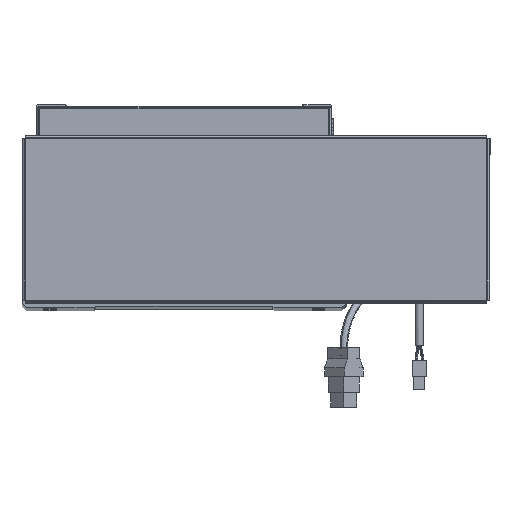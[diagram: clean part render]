
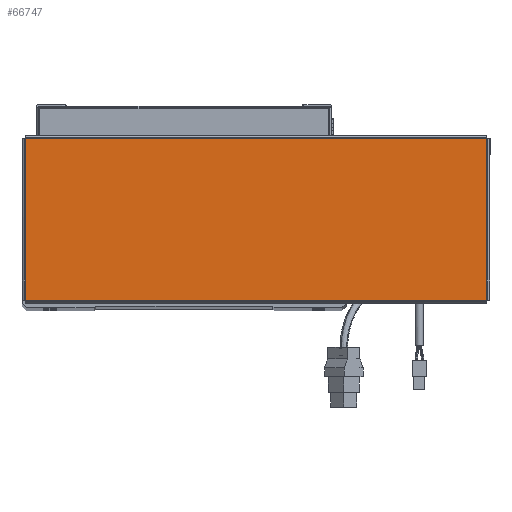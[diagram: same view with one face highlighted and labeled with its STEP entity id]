
A CAD part, top view. The second image highlights one B-rep face of the part: STEP entity #66747.
In plain terms, the highlighted planar face has unit normal (0, 0, 1).
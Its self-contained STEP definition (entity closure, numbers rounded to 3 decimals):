
#2265 = CARTESIAN_POINT ( 'NONE',  ( 156.513, 54.763, 0. ) ) ;
#3042 = CARTESIAN_POINT ( 'NONE',  ( -156.513, 54.763, 0. ) ) ;
#3336 = VECTOR ( 'NONE', #18584, 1000. ) ;
#6587 = LINE ( 'NONE', #39116, #3336 ) ;
#8775 = EDGE_CURVE ( 'NONE', #14063, #9733, #6587, .T. ) ;
#9733 = VERTEX_POINT ( 'NONE', #11433 ) ;
#11433 = CARTESIAN_POINT ( 'NONE',  ( 156.513, -54.763, 0. ) ) ;
#13258 = DIRECTION ( 'NONE',  ( 1., 0., 0. ) ) ;
#14063 = VERTEX_POINT ( 'NONE', #27598 ) ;
#14502 = VECTOR ( 'NONE', #58199, 1000. ) ;
#15438 = VERTEX_POINT ( 'NONE', #3042 ) ;
#16628 = AXIS2_PLACEMENT_3D ( 'NONE', #55365, #59647, #13258 ) ;
#17350 = DIRECTION ( 'NONE',  ( -1., 0., 0. ) ) ;
#18584 = DIRECTION ( 'NONE',  ( 1., 0., 0. ) ) ;
#19373 = FACE_OUTER_BOUND ( 'NONE', #42547, .T. ) ;
#23628 = PLANE ( 'NONE',  #16628 ) ;
#27598 = CARTESIAN_POINT ( 'NONE',  ( -156.513, -54.763, 0. ) ) ;
#29006 = ORIENTED_EDGE ( 'NONE', *, *, #8775, .T. ) ;
#38723 = ORIENTED_EDGE ( 'NONE', *, *, #54689, .T. ) ;
#39116 = CARTESIAN_POINT ( 'NONE',  ( -156.543, -54.763, 0. ) ) ;
#42217 = CARTESIAN_POINT ( 'NONE',  ( 156.513, -54.793, 0. ) ) ;
#42374 = CARTESIAN_POINT ( 'NONE',  ( 156.543, 54.763, 0. ) ) ;
#42547 = EDGE_LOOP ( 'NONE', ( #29006, #38723, #64421, #65342 ) ) ;
#47585 = VECTOR ( 'NONE', #17350, 1000. ) ;
#48989 = LINE ( 'NONE', #55795, #50586 ) ;
#50586 = VECTOR ( 'NONE', #55566, 1000. ) ;
#51227 = EDGE_CURVE ( 'NONE', #15438, #14063, #48989, .T. ) ;
#53607 = EDGE_CURVE ( 'NONE', #55601, #15438, #55762, .T. ) ;
#54689 = EDGE_CURVE ( 'NONE', #9733, #55601, #66106, .T. ) ;
#55365 = CARTESIAN_POINT ( 'NONE',  ( 0., 0., 0. ) ) ;
#55566 = DIRECTION ( 'NONE',  ( 0., -1., 0. ) ) ;
#55601 = VERTEX_POINT ( 'NONE', #2265 ) ;
#55762 = LINE ( 'NONE', #42374, #47585 ) ;
#55795 = CARTESIAN_POINT ( 'NONE',  ( -156.513, 54.793, 0. ) ) ;
#58199 = DIRECTION ( 'NONE',  ( 0., 1., 0. ) ) ;
#59647 = DIRECTION ( 'NONE',  ( 0., 0., 1. ) ) ;
#64421 = ORIENTED_EDGE ( 'NONE', *, *, #53607, .T. ) ;
#65342 = ORIENTED_EDGE ( 'NONE', *, *, #51227, .T. ) ;
#66106 = LINE ( 'NONE', #42217, #14502 ) ;
#66747 = ADVANCED_FACE ( 'NONE', ( #19373 ), #23628, .T. ) ;
